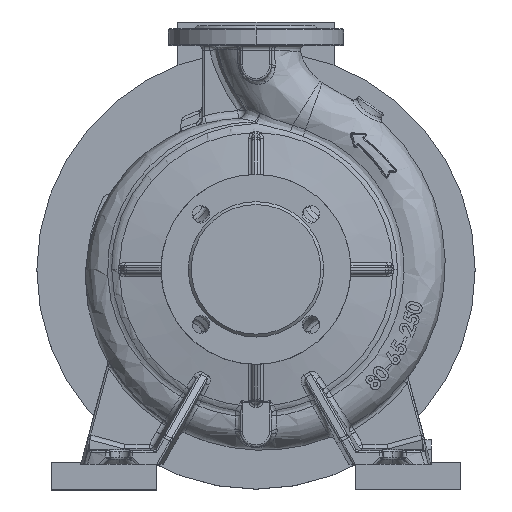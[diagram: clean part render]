
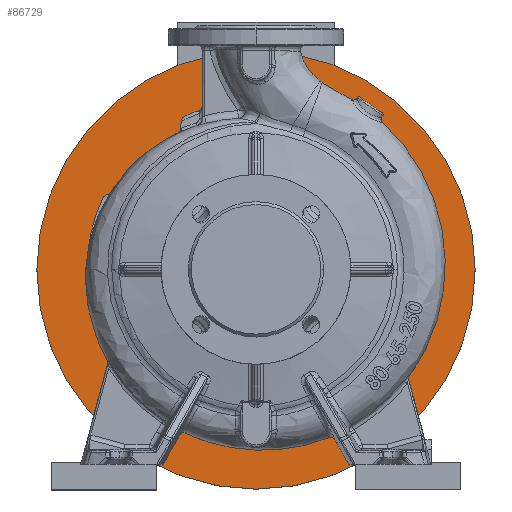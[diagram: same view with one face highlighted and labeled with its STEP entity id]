
A CAD part, top view. The second image highlights one B-rep face of the part: STEP entity #86729.
In plain terms, the highlighted planar face has unit normal (0, 0, 1).
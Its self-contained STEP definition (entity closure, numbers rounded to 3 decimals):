
#2705 = DIRECTION ( 'NONE',  ( 0., 0., -1. ) ) ;
#5936 = EDGE_LOOP ( 'NONE', ( #71050, #22216 ) ) ;
#7830 = AXIS2_PLACEMENT_3D ( 'NONE', #9681, #16685, #38304 ) ;
#8033 = AXIS2_PLACEMENT_3D ( 'NONE', #24324, #31631, #53614 ) ;
#9681 = CARTESIAN_POINT ( 'NONE',  ( 0., 0., -273.8 ) ) ;
#13614 = CIRCLE ( 'NONE', #7830, 125. ) ;
#14929 = EDGE_CURVE ( 'NONE', #18964, #55150, #13614, .T. ) ;
#15796 = VERTEX_POINT ( 'NONE', #47066 ) ;
#16685 = DIRECTION ( 'NONE',  ( 0., 0., 1. ) ) ;
#18964 = VERTEX_POINT ( 'NONE', #70773 ) ;
#22216 = ORIENTED_EDGE ( 'NONE', *, *, #34500, .T. ) ;
#23972 = FACE_OUTER_BOUND ( 'NONE', #5936, .T. ) ;
#24324 = CARTESIAN_POINT ( 'NONE',  ( 0., 0., -273.8 ) ) ;
#31631 = DIRECTION ( 'NONE',  ( 0., 0., 1. ) ) ;
#33962 = CARTESIAN_POINT ( 'NONE',  ( 125., 0., -273.8 ) ) ;
#34500 = EDGE_CURVE ( 'NONE', #56294, #15796, #48242, .T. ) ;
#38304 = DIRECTION ( 'NONE',  ( 1., 0., 0. ) ) ;
#40741 = AXIS2_PLACEMENT_3D ( 'NONE', #53657, #68237, #89455 ) ;
#43722 = DIRECTION ( 'NONE',  ( 1., 0., 0. ) ) ;
#46305 = CARTESIAN_POINT ( 'NONE',  ( 0., 125., -273.8 ) ) ;
#46914 = PLANE ( 'NONE',  #49826 ) ;
#47066 = CARTESIAN_POINT ( 'NONE',  ( 225., 0., -273.8 ) ) ;
#48242 = CIRCLE ( 'NONE', #59055, 225. ) ;
#49826 = AXIS2_PLACEMENT_3D ( 'NONE', #46305, #2705, #54547 ) ;
#53614 = DIRECTION ( 'NONE',  ( 1., 0., 0. ) ) ;
#53657 = CARTESIAN_POINT ( 'NONE',  ( 0., 0., -273.8 ) ) ;
#53886 = EDGE_CURVE ( 'NONE', #15796, #56294, #63114, .T. ) ;
#54547 = DIRECTION ( 'NONE',  ( -1., 0., 0. ) ) ;
#55150 = VERTEX_POINT ( 'NONE', #33962 ) ;
#56294 = VERTEX_POINT ( 'NONE', #69677 ) ;
#58775 = EDGE_CURVE ( 'NONE', #55150, #18964, #84355, .T. ) ;
#59055 = AXIS2_PLACEMENT_3D ( 'NONE', #87716, #87099, #43722 ) ;
#63103 = ORIENTED_EDGE ( 'NONE', *, *, #58775, .F. ) ;
#63114 = CIRCLE ( 'NONE', #40741, 225. ) ;
#65168 = EDGE_LOOP ( 'NONE', ( #63103, #93561 ) ) ;
#68237 = DIRECTION ( 'NONE',  ( 0., 0., 1. ) ) ;
#69677 = CARTESIAN_POINT ( 'NONE',  ( -225., 0., -273.8 ) ) ;
#70773 = CARTESIAN_POINT ( 'NONE',  ( -125., 0., -273.8 ) ) ;
#71050 = ORIENTED_EDGE ( 'NONE', *, *, #53886, .T. ) ;
#82983 = FACE_BOUND ( 'NONE', #65168, .T. ) ;
#84355 = CIRCLE ( 'NONE', #8033, 125. ) ;
#86729 = ADVANCED_FACE ( 'NONE', ( #82983, #23972 ), #46914, .F. ) ;
#87099 = DIRECTION ( 'NONE',  ( 0., 0., 1. ) ) ;
#87716 = CARTESIAN_POINT ( 'NONE',  ( 0., 0., -273.8 ) ) ;
#89455 = DIRECTION ( 'NONE',  ( 1., 0., 0. ) ) ;
#93561 = ORIENTED_EDGE ( 'NONE', *, *, #14929, .F. ) ;
